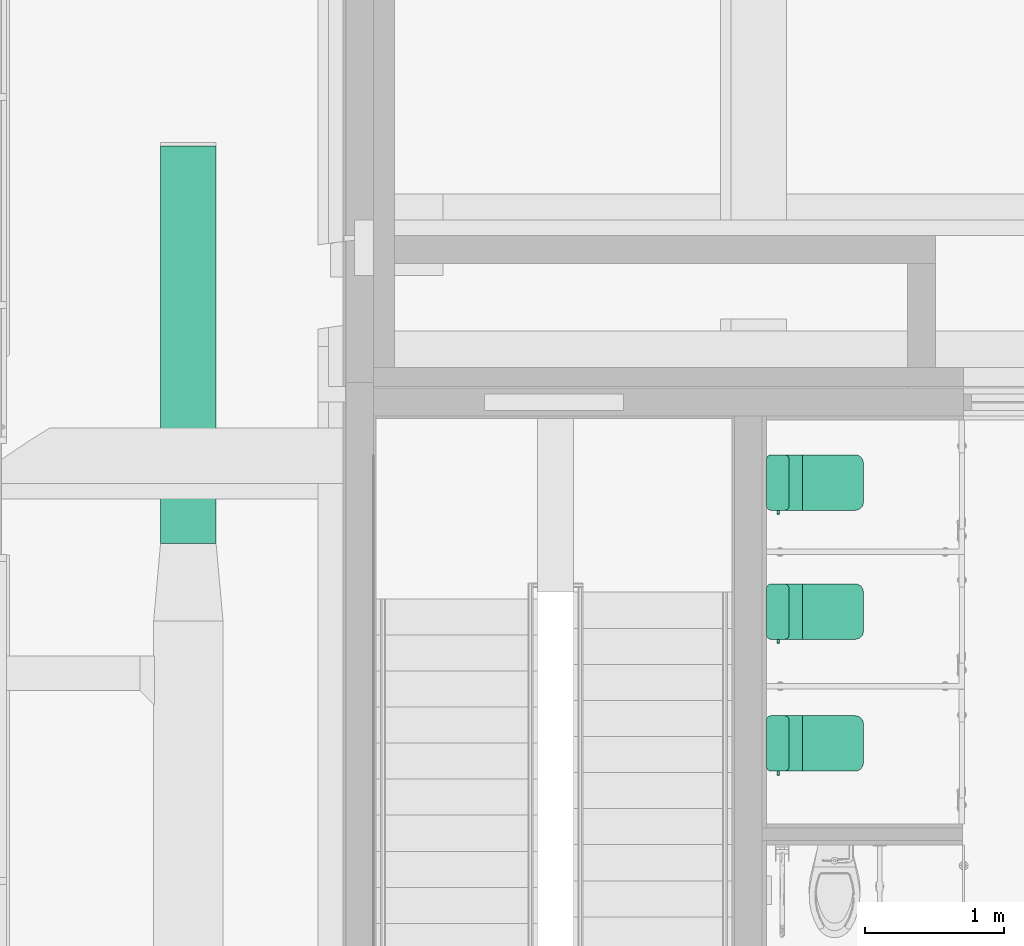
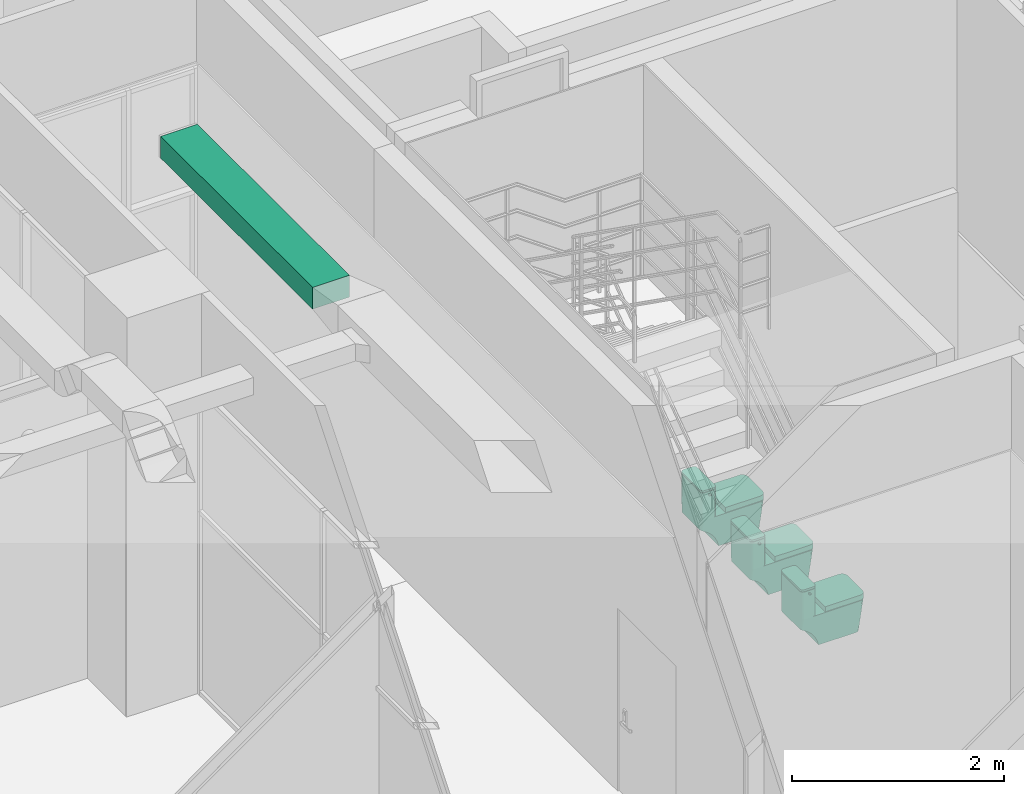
# One storey, part 87 of 100: 3 flow terminals, 1 flow segment.
"""IFC2X3 building model written with IfcOpenShell, lengths in millimetres."""

from ifc_helpers import new_model, entity, si_unit, converted_unit, derived_unit, direction, frame, frame_2d, origin, place, context, subcontext, project, spatial, rectangle, extrude, faceted_brep, source, transform, mapped, material, material_list, type_object, type_shapes, element, save


model = new_model("IFC2X3")

# Units and contexts
model_context = context("Model", 3, precision=0.01, world=origin(), true_north=direction((6.123031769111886e-17, 1.0)))
body_context = subcontext(model_context, "Body", "Model", "MODEL_VIEW")
ifc_project = project(units=[si_unit("LENGTHUNIT", "METRE", prefix="MILLI"), si_unit("AREAUNIT", "SQUARE_METRE"), si_unit("VOLUMEUNIT", "CUBIC_METRE"), converted_unit("PLANEANGLEUNIT", "DEGREE", entity("IfcRatioMeasure", 0.017453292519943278), si_unit("PLANEANGLEUNIT", "RADIAN"), dimensions=[0, 0, 0, 0, 0, 0, 0]), si_unit("MASSUNIT", "GRAM", prefix="KILO"), derived_unit("MASSDENSITYUNIT", [(si_unit("MASSUNIT", "GRAM", prefix="KILO"), 1), (si_unit("LENGTHUNIT", "METRE"), -3)]), derived_unit("MOMENTOFINERTIAUNIT", [(si_unit("LENGTHUNIT", "METRE"), 4)]), si_unit("TIMEUNIT", "SECOND"), si_unit("FREQUENCYUNIT", "HERTZ"), si_unit("THERMODYNAMICTEMPERATUREUNIT", "DEGREE_CELSIUS"), derived_unit("THERMALTRANSMITTANCEUNIT", [(si_unit("MASSUNIT", "GRAM", prefix="KILO"), 1), (si_unit("THERMODYNAMICTEMPERATUREUNIT", "KELVIN"), -1), (si_unit("TIMEUNIT", "SECOND"), -3)]), derived_unit("VOLUMETRICFLOWRATEUNIT", [(si_unit("LENGTHUNIT", "METRE"), 3), (si_unit("TIMEUNIT", "SECOND"), -1)]), derived_unit("MASSFLOWRATEUNIT", [(si_unit("MASSUNIT", "GRAM", prefix="KILO"), 1), (si_unit("TIMEUNIT", "SECOND"), -1)]), derived_unit("ROTATIONALFREQUENCYUNIT", [(si_unit("TIMEUNIT", "SECOND"), -1)]), si_unit("ELECTRICCURRENTUNIT", "AMPERE"), si_unit("ELECTRICVOLTAGEUNIT", "VOLT"), si_unit("POWERUNIT", "WATT"), si_unit("FORCEUNIT", "NEWTON", prefix="KILO"), si_unit("ILLUMINANCEUNIT", "LUX"), si_unit("LUMINOUSFLUXUNIT", "LUMEN"), si_unit("LUMINOUSINTENSITYUNIT", "CANDELA"), derived_unit("USERDEFINED", [(si_unit("MASSUNIT", "GRAM", prefix="KILO"), -1), (si_unit("LENGTHUNIT", "METRE"), -2), (si_unit("TIMEUNIT", "SECOND"), 3), (si_unit("LUMINOUSFLUXUNIT", "LUMEN"), 1)]), derived_unit("SOUNDPOWERUNIT", [(si_unit("MASSUNIT", "GRAM", prefix="KILO"), 1), (si_unit("LENGTHUNIT", "METRE"), 2), (si_unit("TIMEUNIT", "SECOND"), -3)]), derived_unit("SOUNDPRESSUREUNIT", [(si_unit("MASSUNIT", "GRAM", prefix="KILO"), 1), (si_unit("LENGTHUNIT", "METRE"), -1), (si_unit("TIMEUNIT", "SECOND"), -2)]), derived_unit("LINEARVELOCITYUNIT", [(si_unit("LENGTHUNIT", "METRE"), 1), (si_unit("TIMEUNIT", "SECOND"), -1)]), si_unit("PRESSUREUNIT", "PASCAL"), derived_unit("USERDEFINED", [(si_unit("LENGTHUNIT", "METRE"), -2), (si_unit("MASSUNIT", "GRAM", prefix="KILO"), 1), (si_unit("TIMEUNIT", "SECOND"), -2)]), derived_unit("LINEARFORCEUNIT", [(si_unit("MASSUNIT", "GRAM", prefix="KILO"), 1), (si_unit("LENGTHUNIT", "METRE"), 1), (si_unit("TIMEUNIT", "SECOND"), -2), (si_unit("LENGTHUNIT", "METRE"), -1)]), derived_unit("PLANARFORCEUNIT", [(si_unit("MASSUNIT", "GRAM", prefix="KILO"), 1), (si_unit("LENGTHUNIT", "METRE"), 1), (si_unit("TIMEUNIT", "SECOND"), -2), (si_unit("LENGTHUNIT", "METRE"), -2)])], contexts=[model_context])

# Site, building, storey, space
site_placement = place(None, frame((-14167.972527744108, -657.2125860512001, 0.0)))
site = spatial("IfcSite", under=ifc_project, at=site_placement, Name="Default", CompositionType="ELEMENT")
building_placement = place(site_placement, origin())
building = spatial("IfcBuilding", under=site, at=building_placement, Name="Sample Building", CompositionType="ELEMENT")
storey_placement = place(building_placement, origin())
storey = spatial("IfcBuildingStorey", under=building, at=storey_placement, Name="지상 1층", CompositionType="ELEMENT", Elevation=0.0)
space_placement = place(storey_placement, origin())
space = spatial("IfcSpace", under=storey, at=space_placement, Name="170", CompositionType="ELEMENT", InteriorOrExteriorSpace="INTERNAL")

# Flow terminals
ifc_material_1 = material(Name="KBIMS-스테인리스 스틸_도금")
ifc_material_2 = material(Name="KBIMS-도기")
ifc_material_list_1 = material_list([ifc_material_1, ifc_material_2])
ifc_material_list_2 = material_list([ifc_material_1, ifc_material_2, ifc_material_2])
distribution_element_type = type_object("IfcDistributionElementType", Name="PF127-서양식 탱크일체형:PF127-서양식 탱크일체형", material=ifc_material_list_2)
shared_shape = source(origin(), body_context, "Body", "Brep", [
    faceted_brep([(-200.0, -93.78427766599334, 671.547634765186), (-226.3198216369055, -93.78427766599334, 671.5476347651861), (-228.9221007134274, -93.78427766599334, 670.469735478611), (-230.0, -93.78427766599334, 667.8674564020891), (-230.0, -93.78427766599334, 663.5153317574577), (-229.51628854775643, -93.78427766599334, 661.8557929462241), (-228.21666089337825, -93.78427766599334, 660.71605008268), (-215.9758797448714, -93.78427766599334, 655.0080800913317), (-211.766557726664, -93.78427766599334, 653.5792078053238), (-207.34774888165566, -93.78427766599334, 653.095269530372), (-200.0, -93.78427766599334, 653.095269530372), (-230.0, -75.66503821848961, 663.5153317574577), (-230.0, -75.66503821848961, 667.8674564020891), (-228.9221007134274, -75.66503821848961, 670.469735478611), (-226.31982163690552, -75.66503821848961, 671.5476347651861), (-200.0, -75.66503821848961, 671.547634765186), (-200.0, -75.66503821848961, 653.095269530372), (-207.34774888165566, -75.66503821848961, 653.095269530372), (-211.766557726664, -75.66503821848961, 653.5792078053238), (-215.97587974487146, -75.66503821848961, 655.0080800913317), (-228.21666089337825, -75.66503821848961, 660.71605008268), (-229.51628854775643, -75.66503821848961, 661.8557929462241)], [[[0, 1, 2, 3, 4, 5, 6, 7, 8, 9, 10]], [[11, 12, 13, 14, 15, 16, 17, 18, 19, 20, 21]], [[1, 14, 13, 2]], [[13, 12, 3, 2]], [[4, 3, 12, 11]], [[4, 11, 21, 5]], [[21, 20, 6, 5]], [[7, 6, 20, 19]], [[7, 19, 18, 8]], [[18, 17, 9, 8]], [[10, 9, 17, 16]], [[0, 10, 16, 15]], [[1, 0, 15, 14]]]),
    faceted_brep([(140.0, -700.0, 445.0), (155.52914270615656, -697.9555495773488, 445.0), (170.0, -691.9615242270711, 445.0), (182.42640687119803, -682.4264068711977, 445.0), (191.96152422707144, -670.0, 445.0), (197.9555495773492, -655.5291427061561, 445.0), (200.0, -640.0, 445.0), (200.0, -260.0, 445.0), (-200.0, -260.0, 445.0), (-200.0, -640.0, 445.0), (-197.95554957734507, -655.5291427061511, 445.0), (-191.96152422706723, -670.0, 445.0), (-182.42640687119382, -682.4264068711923, 445.0), (-170.0, -691.9615242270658, 445.0), (-155.52914270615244, -697.9555495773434, 445.0), (-140.0, -700.0, 445.0), (-200.0, -640.0, 386.96747142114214), (-200.0, -260.0, 386.96747142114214), (200.0, -260.0, 386.96747142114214), (200.0, -640.0, 386.96747142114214), (197.9555495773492, -655.5291427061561, 386.96747142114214), (191.96152422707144, -670.0, 386.96747142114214), (182.42640687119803, -682.4264068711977, 386.96747142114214), (170.0, -691.9615242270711, 386.96747142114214), (155.52914270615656, -697.9555495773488, 386.96747142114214), (140.0, -700.0, 386.96747142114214), (-140.0, -700.0, 386.96747142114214), (-155.52914270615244, -697.9555495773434, 386.96747142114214), (-170.0, -691.9615242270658, 386.96747142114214), (-182.42640687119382, -682.4264068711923, 386.96747142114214), (-191.96152422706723, -670.0, 386.96747142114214), (-197.95554957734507, -655.5291427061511, 386.96747142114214)], [[[0, 1, 2, 3, 4, 5, 6, 7, 8, 9, 10, 11, 12, 13, 14, 15]], [[16, 17, 18, 19, 20, 21, 22, 23, 24, 25, 26, 27, 28, 29, 30, 31]], [[1, 24, 23, 2]], [[2, 23, 22, 3]], [[25, 24, 1, 0]], [[4, 21, 20, 5]], [[5, 20, 19, 6]], [[3, 22, 21, 4]], [[7, 6, 19, 18]], [[8, 7, 18, 17]], [[9, 8, 17, 16]], [[10, 31, 30, 11]], [[11, 30, 29, 12]], [[9, 16, 31, 10]], [[13, 28, 27, 14]], [[14, 27, 26, 15]], [[12, 29, 28, 13]], [[0, 15, 26, 25]]]),
    faceted_brep([(165.0, 0.0, 694.4321747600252), (165.0, 0.0, 380.0), (164.13685378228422, 0.0, 314.40088745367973), (163.42105263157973, 0.0, 260.0), (-163.42105263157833, 0.0, 260.0), (-164.1368541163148, 0.0, 314.40091283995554), (-165.0, 0.0, 380.0), (-165.0, 0.0, 694.4321747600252), (-165.0, 0.0, 720.0), (165.0, 0.0, 720.0), (165.0, 0.0, 699.4321747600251), (-165.0, 0.0, 699.4321747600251), (200.0, -35.0, 694.4321747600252), (200.0, -130.0, 694.4321747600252), (200.0, -130.0, 380.0), (200.0, -35.0, 380.0), (200.0, -35.0, 720.0), (200.0, -130.0, 720.0), (200.0, -130.0, 699.4321747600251), (200.0, -35.0, 699.4321747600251), (-198.80740392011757, -139.05866657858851, 694.4321747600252), (-198.80740392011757, -139.0586665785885, 380.0), (-195.31088913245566, -147.5000000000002, 380.0), (-195.31088913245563, -147.50000000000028, 694.4321747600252), (-198.80740392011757, -139.05866657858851, 699.4321747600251), (-195.31088913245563, -147.50000000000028, 699.4321747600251), (-195.3108891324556, -147.50000000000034, 720.0), (-198.80740392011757, -139.05866657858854, 720.0), (-189.74873734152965, -154.74873734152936, 380.0), (-189.74873734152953, -154.74873734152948, 694.4321747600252), (-189.74873734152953, -154.74873734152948, 699.4321747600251), (-189.74873734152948, -154.74873734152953, 720.0), (-200.0, -130.0, 380.0), (-200.0, -130.0, 694.4321747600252), (-200.0, -130.0, 699.4321747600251), (-200.0, -130.0, 720.0), (-182.5000000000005, -160.31088913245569, 694.4321747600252), (-182.50000000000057, -160.31088913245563, 380.0), (-174.05866657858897, -163.80740392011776, 380.0), (-174.05866657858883, -163.8074039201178, 694.4321747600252), (-174.05866657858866, -163.80740392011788, 720.0), (-182.50000000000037, -160.31088913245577, 720.0), (-182.5000000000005, -160.31088913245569, 699.4321747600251), (-174.05866657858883, -163.8074039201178, 699.4321747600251), (-165.0, -165.0, 380.0), (-165.0, -165.0, 694.4321747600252), (-165.0, -165.0, 720.0), (-165.0, -165.0, 699.4321747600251), (165.0, -165.0, 694.4321747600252), (165.0, -165.0, 380.0), (165.0, -165.0, 720.0), (165.0, -165.0, 699.4321747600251), (-200.0, -35.0, 694.4321747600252), (-200.0, -35.0, 380.0), (-200.0, -35.0, 720.0), (-200.0, -35.0, 699.4321747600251), (198.80740392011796, -25.941333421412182, 699.4321747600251), (195.310889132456, -17.500000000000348, 699.4321747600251), (195.31088913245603, -17.500000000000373, 720.0), (198.80740392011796, -25.94133342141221, 720.0), (189.74873734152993, -10.251262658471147, 720.0), (189.74873734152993, -10.251262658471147, 699.4321747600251), (174.05866657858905, -1.1925960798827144, 699.4321747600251), (174.0586665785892, -1.192596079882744, 720.0), (182.50000000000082, -4.68911086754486, 699.4321747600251), (182.50000000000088, -4.68911086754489, 720.0), (174.05866657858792, -163.80740392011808, 694.4321747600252), (174.05866657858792, -163.80740392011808, 380.0), (182.49999999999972, -160.31088913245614, 380.0), (182.49999999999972, -160.31088913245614, 694.4321747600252), (174.05866657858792, -163.80740392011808, 699.4321747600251), (182.49999999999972, -160.31088913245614, 699.4321747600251), (182.5000000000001, -160.31088913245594, 720.0), (174.0586665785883, -163.80740392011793, 720.0), (189.74873734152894, -154.74873734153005, 380.0), (189.74873734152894, -154.74873734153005, 694.4321747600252), (189.74873734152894, -154.74873734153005, 699.4321747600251), (189.74873734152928, -154.74873734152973, 720.0), (195.31088913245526, -147.50000000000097, 694.4321747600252), (195.31088913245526, -147.50000000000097, 380.0), (198.8074039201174, -139.05866657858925, 380.0), (198.8074039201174, -139.05866657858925, 694.4321747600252), (195.31088913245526, -147.50000000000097, 699.4321747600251), (198.8074039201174, -139.05866657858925, 699.4321747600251), (198.80740392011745, -139.0586665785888, 720.0), (195.3108891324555, -147.50000000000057, 720.0), (-174.0586665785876, -1.1925960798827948, 720.0), (-174.0586665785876, -1.1925960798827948, 699.4321747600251), (-182.49999999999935, -4.689110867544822, 720.0), (-182.49999999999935, -4.689110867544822, 699.4321747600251), (-189.7487373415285, -10.251262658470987, 720.0), (-189.7487373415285, -10.251262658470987, 699.4321747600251), (-198.8074039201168, -25.941333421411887, 720.0), (-195.31088913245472, -17.50000000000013, 720.0), (-195.31088913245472, -17.50000000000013, 699.4321747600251), (-198.8074039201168, -25.941333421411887, 699.4321747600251), (-174.0586665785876, -1.192596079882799, 694.4321747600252), (-171.07672145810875, -0.5315585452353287, 380.0), (-176.96898132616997, -2.1101309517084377, 380.0), (-182.49999999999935, -4.689110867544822, 694.4321747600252), (-182.49783433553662, -4.687860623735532, 380.0), (-187.49533036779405, -8.18656844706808, 380.0), (-189.7487373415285, -10.251262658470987, 694.4321747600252), (-195.31088913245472, -17.50000000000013, 694.4321747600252), (-195.3094689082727, -17.4975403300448, 380.0), (-197.88846700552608, -23.02716666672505, 380.0), (-198.8074039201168, -25.941333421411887, 694.4321747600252), (-199.4680424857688, -28.921015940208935, 380.0), (-191.8095995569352, -12.500102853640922, 380.0), (198.80740392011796, -25.941333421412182, 694.4321747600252), (199.46810048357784, -28.92134479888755, 380.0), (197.88863680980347, -23.02763311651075, 380.0), (195.310889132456, -17.500000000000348, 694.4321747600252), (195.3097905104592, -17.498097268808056, 380.0), (191.81007551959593, -12.500669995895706, 380.0), (189.74873734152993, -10.251262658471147, 694.4321747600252), (182.50000000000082, -4.68911086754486, 694.4321747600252), (182.49858765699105, -4.6882954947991, 380.0), (176.9698186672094, -2.110435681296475, 380.0), (171.0775985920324, -0.5317131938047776, 380.0), (174.05866657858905, -1.1925960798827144, 694.4321747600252), (187.49595914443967, -8.187095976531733, 380.0), (160.0, -210.0, 0.0), (160.0, -620.0, 0.0), (156.6733983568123, -632.4150463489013, 0.0), (154.64101615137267, -640.0, 0.0), (147.3205080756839, -647.3205080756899, 0.0), (140.0, -654.6410161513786, 0.0), (132.41504577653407, -656.673398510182, 0.0), (120.0, -660.0, 0.0), (-120.0, -660.0, 0.0), (-132.4150463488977, -656.6733983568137, 0.0), (-140.0, -654.6410161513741, 0.0), (-147.32050807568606, -647.3205080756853, 0.0), (-154.64101615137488, -640.0, 0.0), (-156.67339851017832, -632.4150457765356, 0.0), (-160.0, -620.0, 0.0), (-160.0, -210.0, 0.0), (-200.0, -640.0, 380.0), (-197.71638597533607, -651.4805029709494, 380.0), (-195.43277195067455, -662.961005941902, 380.0), (-188.92958941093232, -672.6937064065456, 380.0), (-182.42640687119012, -682.4264068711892, 380.0), (-172.69370640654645, -688.9295894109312, 380.0), (-162.96100594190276, -695.4327719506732, 380.0), (-151.48050297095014, -697.7163859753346, 380.0), (-140.0, -700.0, 380.0), (140.0, -700.0, 380.0), (151.4805029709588, -697.7163859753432, 380.0), (162.9610059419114, -695.4327719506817, 380.0), (172.69370640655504, -688.9295894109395, 380.0), (182.42640687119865, -682.4264068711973, 380.0), (188.9295894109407, -672.6937064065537, 380.0), (195.4327719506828, -662.96100594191, 380.0), (197.7163859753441, -651.4805029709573, 380.0), (200.0, -640.0, 380.0), (181.88767422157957, -630.9438371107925, 207.93290510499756), (169.05616288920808, -624.5280814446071, 86.03354744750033), (166.41215116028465, -190.4623972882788, 60.91543602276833), (172.39104658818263, -161.03070825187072, 117.71494258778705), (177.76891724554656, -122.53079215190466, 168.80471383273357), (182.39485897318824, -76.04296457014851, 212.75116024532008), (186.13906689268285, -22.871683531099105, 248.32113548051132), (193.0948286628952, -28.957975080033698, 314.4008722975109), (184.4509041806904, -13.399793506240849, 253.3937042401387), (192.48236559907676, -21.712362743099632, 318.068486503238), (185.85897664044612, -18.078391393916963, 250.93098822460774), (169.4535256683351, -0.47508644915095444, 318.71364296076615), (176.81269594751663, -2.7853559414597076, 322.8232335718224), (184.85554366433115, -8.564241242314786, 317.5126549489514), (188.64536552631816, -13.805323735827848, 311.79954638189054), (181.93237214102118, -9.070973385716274, 255.5993773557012), (168.85282113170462, -0.6257823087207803, 259.7058617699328), (178.3784036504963, -5.339995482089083, 257.4452533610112), (173.94033185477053, -2.453774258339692, 258.83869964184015), (-193.09483031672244, -28.957976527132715, 314.4008880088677), (-192.48224700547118, -21.712007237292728, 318.06820833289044), (-185.85897664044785, -18.07839139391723, 250.93098822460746), (-169.4535400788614, -0.47508841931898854, 318.7138102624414), (-188.64533012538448, -13.805305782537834, 311.79916939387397), (-184.4509041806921, -13.399793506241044, 253.39370424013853), (-184.85525539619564, -8.563839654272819, 317.5148648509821), (-178.37840365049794, -5.3399954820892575, 257.44525336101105), (-181.93237214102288, -9.070973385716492, 255.59937735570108), (-186.13906689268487, -22.87168353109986, 248.32113548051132), (-176.81199260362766, -2.7850356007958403, 322.8227486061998), (-173.9403318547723, -2.4537742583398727, 258.8386996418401), (-168.85282113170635, -0.6257823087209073, 259.70586176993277), (-182.39485897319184, -76.04296457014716, 212.75116024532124), (-177.7689172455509, -122.53079215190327, 168.8047138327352), (-172.3910465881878, -161.03070825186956, 117.71494258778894), (-166.4121511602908, -190.46239728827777, 60.9154360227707), (-170.9438402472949, -625.4719201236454, 103.96648234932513), (-181.88767486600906, -630.9438374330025, 207.932911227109), (167.84723921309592, -644.8835703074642, 113.26853664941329), (182.70359618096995, -650.4613144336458, 244.34084888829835), (172.7916320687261, -658.8131569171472, 202.6373284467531), (163.28959461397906, -663.2895949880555, 167.00838556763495), (161.3612464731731, -651.454814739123, 94.73545488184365), (130.94384024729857, -681.8876804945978, 207.93296469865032), (137.1466297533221, -675.5797921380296, 155.949684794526), (142.81243148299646, -686.5857660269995, 259.99216222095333), (174.39327642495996, -671.2588406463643, 273.5041922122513), (151.45063444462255, -661.3663368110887, 94.74858838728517), (144.3377504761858, -669.7672265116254, 125.97246068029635), (152.4807217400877, -683.0768420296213, 253.0686677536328), (158.81315653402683, -672.7916326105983, 202.63733033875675), (125.47192012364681, -670.9438402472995, 103.96648234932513), (169.1268939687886, -634.5961485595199, 96.37357614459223), (-130.94383711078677, -681.8876742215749, 207.93290510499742), (-124.52808144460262, -669.056162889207, 86.03354744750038), (-144.88357030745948, -667.8472392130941, 113.26853664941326), (-150.46131443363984, -682.7035961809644, 244.34084888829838), (-158.8131569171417, -672.7916320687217, 202.6373284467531), (-163.28959498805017, -663.2895946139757, 167.00838556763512), (-151.4548147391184, -661.3612464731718, 94.73545488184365), (-175.57979213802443, -637.1466297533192, 155.94968479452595), (-186.58576602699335, -642.8124314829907, 259.99216222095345), (-171.25884064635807, -674.3932764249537, 273.50419221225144), (-161.36633681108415, -651.4506344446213, 94.74858838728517), (-169.76722651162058, -644.3377504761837, 125.97246068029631), (-172.79163261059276, -658.8131565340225, 202.63733033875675), (-134.5961485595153, -669.1268939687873, 96.37357614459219), (-183.07684202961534, -652.480721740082, 253.06866775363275), (-185.0, -150.0, 699.4321747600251), (-185.0, -15.0, 699.4321747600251), (-185.0, -15.0, 694.4321747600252), (-185.0, -150.0, 694.4321747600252), (185.0, -150.0, 699.4321747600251), (185.0, -150.0, 694.4321747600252), (185.0, -15.0, 699.4321747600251), (185.0, -15.0, 694.4321747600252)], [[[0, 1, 2, 3, 4, 5, 6, 7]], [[8, 9, 10, 11]], [[12, 13, 14, 15]], [[16, 17, 18, 19]], [[20, 21, 22, 23]], [[24, 25, 26, 27]], [[23, 22, 28, 29]], [[25, 30, 31, 26]], [[32, 21, 20, 33]], [[34, 24, 27, 35]], [[36, 37, 38, 39]], [[40, 41, 42, 43]], [[39, 38, 44, 45]], [[46, 40, 43, 47]], [[29, 28, 37, 36]], [[30, 42, 41, 31]], [[48, 45, 44, 49]], [[50, 46, 47, 51]], [[33, 52, 53, 32]], [[35, 54, 55, 34]], [[56, 57, 58, 59]], [[19, 56, 59, 16]], [[60, 58, 57, 61]], [[62, 10, 9, 63]], [[64, 62, 63, 65]], [[61, 64, 65, 60]], [[66, 67, 68, 69]], [[70, 71, 72, 73]], [[69, 68, 74, 75]], [[71, 76, 77, 72]], [[49, 67, 66, 48]], [[51, 70, 73, 50]], [[78, 79, 80, 81]], [[82, 83, 84, 85]], [[81, 80, 14, 13]], [[83, 18, 17, 84]], [[75, 74, 79, 78]], [[76, 82, 85, 77]], [[86, 8, 11, 87]], [[88, 86, 87, 89]], [[90, 88, 89, 91]], [[92, 93, 94, 95]], [[54, 92, 95, 55]], [[91, 94, 93, 90]], [[9, 8, 86, 88, 90, 93, 92, 54, 35, 27, 26, 31, 41, 40, 46, 50, 73, 72, 77, 85, 84, 17, 16, 59, 58, 60, 65, 63]], [[96, 97, 98]], [[99, 98, 100]], [[99, 100, 101]], [[6, 97, 7]], [[7, 97, 96]], [[98, 99, 96]], [[101, 102, 99]], [[103, 104, 105]], [[106, 105, 107]], [[52, 107, 53]], [[102, 108, 103]], [[108, 102, 101]], [[104, 103, 108]], [[105, 106, 103]], [[107, 52, 106]], [[109, 110, 111]], [[112, 111, 113]], [[112, 113, 114]], [[15, 110, 12]], [[12, 110, 109]], [[111, 112, 109]], [[114, 115, 112]], [[116, 117, 118]], [[118, 119, 120]], [[1, 0, 119]], [[115, 121, 116]], [[121, 115, 114]], [[117, 116, 121]], [[118, 120, 116]], [[119, 0, 120]], [[122, 123, 124, 125, 126, 127, 128, 129, 130, 131, 132, 133, 134, 135, 136, 137]], [[21, 32, 138, 139, 140, 141, 142, 143, 144, 145, 146, 147, 148, 149, 150, 151, 152, 153, 154, 155, 14, 80, 79, 74, 68, 67, 49, 44, 38, 37, 28, 22]], [[14, 155, 156, 157, 123, 122, 158, 159, 160, 161, 162, 163, 15]], [[164, 165, 166]], [[1, 119, 167]], [[118, 117, 168]], [[169, 170, 171]], [[121, 169, 168]], [[117, 121, 168]], [[2, 1, 167, 3]], [[170, 114, 113]], [[172, 167, 168]], [[110, 15, 163]], [[173, 174, 168]], [[171, 173, 169]], [[114, 169, 121]], [[111, 165, 170]], [[111, 110, 165]], [[3, 167, 172]], [[165, 163, 166]], [[168, 169, 173]], [[169, 114, 170]], [[172, 168, 174]], [[171, 170, 164]], [[164, 170, 165]], [[168, 167, 118]], [[166, 163, 162]], [[163, 165, 110]], [[167, 119, 118]], [[170, 113, 111]], [[175, 176, 177]], [[98, 97, 178]], [[176, 105, 179]], [[176, 179, 180]], [[108, 181, 179]], [[182, 183, 181]], [[175, 107, 176]], [[6, 5, 4, 178]], [[184, 175, 177]], [[176, 180, 177]], [[182, 185, 186]], [[179, 183, 180]], [[105, 104, 179]], [[101, 181, 108]], [[185, 100, 98]], [[185, 98, 178]], [[185, 178, 187]], [[97, 6, 178]], [[101, 100, 185]], [[181, 101, 185]], [[107, 105, 176]], [[185, 182, 181]], [[185, 187, 186]], [[175, 53, 107]], [[178, 4, 187]], [[181, 183, 179]], [[179, 104, 108]], [[138, 32, 53, 175, 184, 188, 189, 190, 191, 137, 136, 192, 193]], [[194, 195, 196]], [[197, 126, 198]], [[199, 200, 201]], [[156, 154, 195]], [[202, 152, 151]], [[196, 152, 202]], [[127, 203, 204]], [[194, 198, 125]], [[150, 205, 206]], [[203, 206, 204]], [[124, 194, 125]], [[198, 194, 196]], [[200, 199, 207]], [[123, 157, 156, 208]], [[194, 124, 208]], [[206, 197, 202]], [[194, 208, 195]], [[150, 202, 151]], [[156, 195, 208]], [[123, 208, 124]], [[126, 197, 203]], [[197, 198, 196]], [[126, 125, 198]], [[202, 197, 196]], [[197, 206, 203]], [[127, 204, 128]], [[126, 203, 127]], [[206, 205, 204]], [[202, 150, 206]], [[128, 204, 200]], [[195, 152, 196]], [[148, 205, 149]], [[152, 195, 153]], [[205, 148, 201]], [[128, 200, 207]], [[205, 201, 200]], [[129, 128, 207]], [[205, 200, 204]], [[147, 199, 201]], [[154, 156, 155]], [[154, 153, 195]], [[149, 205, 150]], [[148, 147, 201]], [[146, 209, 210, 130, 129, 207, 199, 147]], [[211, 212, 213]], [[214, 133, 215]], [[193, 216, 217]], [[209, 145, 212]], [[218, 143, 142]], [[213, 143, 218]], [[134, 219, 220]], [[211, 215, 132]], [[142, 141, 218]], [[219, 221, 220]], [[131, 211, 132]], [[215, 211, 213]], [[216, 193, 192]], [[130, 210, 209, 222]], [[211, 131, 222]], [[221, 214, 218]], [[211, 222, 212]], [[218, 141, 221]], [[209, 212, 222]], [[130, 222, 131]], [[133, 214, 219]], [[214, 215, 213]], [[133, 132, 215]], [[218, 214, 213]], [[214, 221, 219]], [[134, 220, 135]], [[133, 219, 134]], [[221, 223, 220]], [[141, 223, 221]], [[135, 220, 216]], [[212, 143, 213]], [[223, 141, 140]], [[143, 212, 144]], [[223, 139, 217]], [[135, 216, 192]], [[223, 217, 216]], [[136, 135, 192]], [[223, 216, 220]], [[138, 193, 217]], [[145, 209, 146]], [[145, 144, 212]], [[139, 223, 140]], [[139, 138, 217]], [[186, 187, 4]], [[182, 186, 4]], [[4, 180, 183]], [[182, 4, 183]], [[4, 3, 162, 184]], [[172, 174, 3]], [[173, 3, 174]], [[171, 3, 173]], [[164, 3, 171]], [[164, 166, 3]], [[162, 3, 166]], [[177, 180, 4]], [[184, 162, 161, 188]], [[190, 189, 160, 159]], [[160, 189, 188, 161]], [[191, 190, 159, 158]], [[191, 158, 122, 137]], [[177, 4, 184]], [[224, 225, 226, 227]], [[228, 224, 227, 229]], [[230, 228, 229, 231]], [[225, 230, 231, 226]], [[78, 81, 229]], [[229, 75, 78]], [[81, 13, 229]], [[231, 229, 13]], [[13, 12, 231]], [[12, 109, 231]], [[231, 109, 112]], [[112, 115, 231]], [[115, 116, 231]], [[120, 231, 116]], [[231, 120, 0]], [[231, 0, 226]], [[226, 0, 7]], [[226, 7, 96]], [[96, 99, 226]], [[102, 226, 99]], [[103, 226, 102]], [[226, 103, 106]], [[106, 52, 226]], [[33, 226, 52]], [[33, 227, 226]], [[20, 227, 33]], [[23, 227, 20]], [[29, 227, 23]], [[29, 36, 227]], [[39, 227, 36]], [[227, 39, 45]], [[48, 227, 45]], [[229, 48, 66]], [[48, 229, 227]], [[66, 69, 229]], [[75, 229, 69]], [[57, 56, 230]], [[230, 61, 57]], [[56, 19, 230]], [[228, 230, 19]], [[19, 18, 228]], [[18, 83, 228]], [[228, 83, 82]], [[82, 76, 228]], [[76, 71, 228]], [[70, 228, 71]], [[228, 70, 51]], [[224, 228, 51]], [[51, 47, 224]], [[224, 47, 43]], [[43, 42, 224]], [[30, 224, 42]], [[25, 224, 30]], [[224, 25, 24]], [[24, 34, 224]], [[55, 224, 34]], [[55, 225, 224]], [[95, 225, 55]], [[94, 225, 95]], [[91, 225, 94]], [[91, 89, 225]], [[87, 225, 89]], [[225, 87, 11]], [[10, 225, 11]], [[230, 10, 62]], [[230, 225, 10]], [[62, 64, 230]], [[61, 230, 64]]]),
])
type_shapes(distribution_element_type, [shared_shape])
flow_terminal_1_placement = place(space_placement, frame((33097.96375501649, 27477.212300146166, -510.0), z_axis=(0.0, 0.0, 1.0), x_axis=(0.0, 1.0, 0.0)))
element("IfcFlowTerminal", 1, at=flow_terminal_1_placement, inside=space, type_object=distribution_element_type, material=ifc_material_list_1, Name="PF127-서양식 탱크일체형:PF127-서양식 탱크일체형", ObjectType="PF127-서양식 탱크일체형:PF127-서양식 탱크일체형", context=body_context, shape_type="MappedRepresentation", body=[
    mapped(shared_shape, transform((0.0, 0.0, 0.0), scale=1.0)),
])
ifc_material_list_3 = material_list([ifc_material_1, ifc_material_2])
flow_terminal_2_placement = place(space_placement, frame((33097.96375501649, 26547.21230014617, -510.0), z_axis=(0.0, 0.0, 1.0), x_axis=(0.0, 1.0, 0.0)))
element("IfcFlowTerminal", 2, at=flow_terminal_2_placement, inside=space, type_object=distribution_element_type, material=ifc_material_list_3, Name="PF127-서양식 탱크일체형:PF127-서양식 탱크일체형", ObjectType="PF127-서양식 탱크일체형:PF127-서양식 탱크일체형", context=body_context, shape_type="MappedRepresentation", body=[
    mapped(shared_shape, transform((0.0, 0.0, 0.0), scale=1.0)),
])
ifc_material_list_4 = material_list([ifc_material_1, ifc_material_2])
flow_terminal_3_placement = place(space_placement, frame((33097.96366479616, 25597.212300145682, -510.0), z_axis=(0.0, 0.0, 1.0), x_axis=(0.0, 1.0, 0.0)))
element("IfcFlowTerminal", 3, at=flow_terminal_3_placement, inside=space, type_object=distribution_element_type, material=ifc_material_list_4, Name="PF127-서양식 탱크일체형:PF127-서양식 탱크일체형", ObjectType="PF127-서양식 탱크일체형:PF127-서양식 탱크일체형", context=body_context, shape_type="MappedRepresentation", body=[
    mapped(shared_shape, transform((0.0, 0.0, 0.0), scale=1.0)),
])

# Flow segment
duct_segment_type = type_object("IfcDuctSegmentType", Name="직사각형 덕트:SA", PredefinedType="NOTDEFINED")
flow_segment_placement = place(storey_placement, origin())
element("IfcFlowSegment", 4, at=flow_segment_placement, inside=storey, type_object=duct_segment_type, Name="직사각형 덕트:SA", ObjectType="직사각형 덕트:SA", context=body_context, shape_type="SweptSolid", body=[
    extrude(rectangle(XDim=2865.192378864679, YDim=400.0, at=frame_2d((0.0, -2.1742607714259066e-12), x_axis=(1.0, 0.0))), frame((28932.15081583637, 28471.33209687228, 3980.0), z_axis=(0.0, 0.0, 1.0), x_axis=(0.0, 1.0, 0.0)), (0.0, 0.0, 1.0), 250.00000000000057),
])

save(model, "model.ifc")
